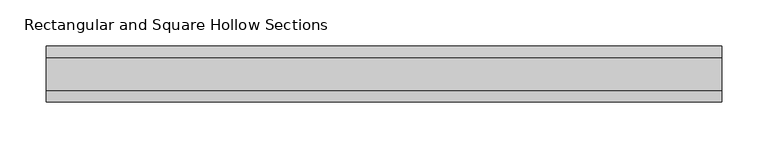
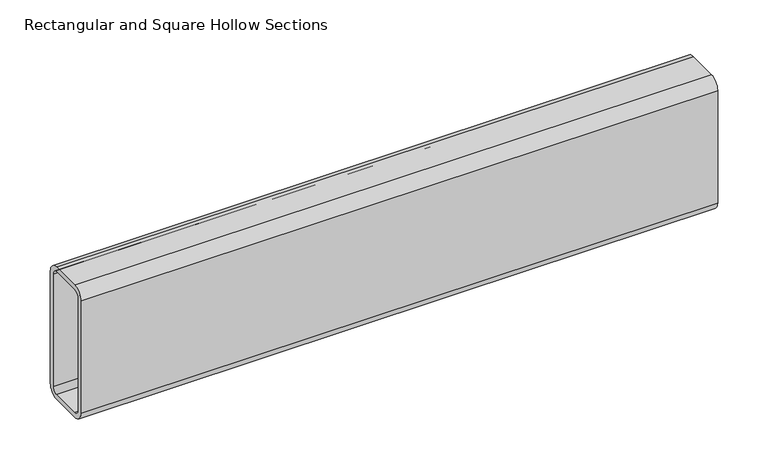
"""IFC4 building model written with IfcOpenShell, lengths in millimetres: beam geometry, Rectangular and Square Hollow Sections : TREC160x60x6."""

import ifcopenshell
import ifcopenshell.guid

model = None  # the IFC model being written
_history = None  # IfcOwnerHistory: only IFC2X3 demands one
_inside = {}  # id of a spatial element -> (the spatial element, [elements in it])
_under = {}  # id of a project, library or spatial element -> (it, [spatial elements below it])
_declared = {}  # id of a project -> (the project, [libraries it declares])
_typed = {}  # id of a type object -> (the type object, [elements of that type])
_made_of = {}  # id of a material, layer set ... -> (it, [elements and type objects made of it])


def new_model(schema):
    """Start an empty IFC model of exactly this schema.

    Asked for "IFC4X3", IfcOpenShell would pick the latest addendum, in which some entities
    have other attributes; the version numbers below select the first issue.
    IFC2X3 requires an IfcOwnerHistory on every rooted entity: one is made here for all.
    """
    global model, _history
    if schema == "IFC4X3":
        model = ifcopenshell.file(schema_version=(4, 3, 0, 0))
    else:
        model = ifcopenshell.file(schema=schema)
    _inside.clear()
    _under.clear()
    _declared.clear()
    _typed.clear()
    _made_of.clear()
    _history = None
    if model.schema == "IFC2X3":
        org = make("IfcOrganization", Name="unknown")
        user = make(
            "IfcPersonAndOrganization",
            ThePerson=make("IfcPerson", FamilyName="unknown"),
            TheOrganization=org,
        )
        app = make(
            "IfcApplication",
            ApplicationDeveloper=org,
            Version="unknown",
            ApplicationFullName="unknown",
            ApplicationIdentifier="unknown",
        )
        _history = make(
            "IfcOwnerHistory",
            OwningUser=user,
            OwningApplication=app,
            ChangeAction="ADDED",
            CreationDate=0,
        )
    return model


def make(cls, **values):
    """One entity of the class cls with the attributes given. An attribute that is None is left unset."""
    return model.create_entity(
        cls, **{name: value for name, value in values.items() if value is not None}
    )


def rooted(cls, **values):
    """An entity with a GlobalId (a new one), such as an element, a storey or a relation."""
    return make(cls, GlobalId=ifcopenshell.guid.new(), OwnerHistory=_history, **values)


def si_unit(unit_type, name, prefix=None):
    """IfcSIUnit, for example si_unit("LENGTHUNIT", "METRE", prefix="MILLI")."""
    return make("IfcSIUnit", UnitType=unit_type, Prefix=prefix, Name=name)


def assignment(units):
    """IfcUnitAssignment: the units of a project."""
    return None if units is None else make("IfcUnitAssignment", Units=units)


def point(xyz):
    """IfcCartesianPoint."""
    return None if xyz is None else make("IfcCartesianPoint", Coordinates=xyz)


def direction(xyz):
    """IfcDirection."""
    return None if xyz is None else make("IfcDirection", DirectionRatios=xyz)


def frame(location, z_axis=None, x_axis=None):
    """IfcAxis2Placement3D, a coordinate frame: its origin and axes. An axis left out is left unset."""
    return make(
        "IfcAxis2Placement3D",
        Location=point(location),
        Axis=direction(z_axis),
        RefDirection=direction(x_axis),
    )


def frame_2d(location, x_axis=None):
    """IfcAxis2Placement2D, a coordinate frame in the plane: its origin and x axis."""
    return make(
        "IfcAxis2Placement2D", Location=point(location), RefDirection=direction(x_axis)
    )


def origin():
    """The frame at (0, 0, 0) with its axes left unset."""
    return frame((0.0, 0.0, 0.0))


def place(relative_to, where):
    """IfcLocalPlacement: puts the frame where relative to a parent placement (None: the world)."""
    return make(
        "IfcLocalPlacement", PlacementRelTo=relative_to, RelativePlacement=where
    )


def context(
    kind, dimensions, precision=None, world=None, true_north=None, identifier=None
):
    """IfcGeometricRepresentationContext, for example the 3D "Model" context."""
    return make(
        "IfcGeometricRepresentationContext",
        ContextIdentifier=identifier,
        ContextType=kind,
        CoordinateSpaceDimension=dimensions,
        Precision=precision,
        WorldCoordinateSystem=world,
        TrueNorth=true_north,
    )


def project(units=None, contexts=None):
    """IfcProject with its units and contexts."""
    return rooted(
        "IfcProject",
        Name="project",
        RepresentationContexts=contexts,
        UnitsInContext=assignment(units),
    )


def spatial(cls, under=None, at=None, **own):
    """A site, building, storey or space (cls), placed at a placement, below another one or the project."""
    s = rooted(cls, ObjectPlacement=at, **own)
    if under is not None:
        _under.setdefault(under.id(), (under, []))[1].append(s)
    return s


def polyline(points):
    """IfcPolyline through the points."""
    return make("IfcPolyline", Points=[point(p) for p in points])


def circle_curve(where, radius):
    """IfcCircle in the frame where."""
    return make("IfcCircle", Position=where, Radius=radius)


def trimmed(basis, trim1, trim2, sense, master):
    """IfcTrimmedCurve: the piece of a basis curve between two trims."""
    return make(
        "IfcTrimmedCurve",
        BasisCurve=basis,
        Trim1=trim1,
        Trim2=trim2,
        SenseAgreement=sense,
        MasterRepresentation=master,
    )


def segment(curve, same_sense, transition):
    """IfcCompositeCurveSegment."""
    return make(
        "IfcCompositeCurveSegment",
        Transition=transition,
        SameSense=same_sense,
        ParentCurve=curve,
    )


def composite_curve(segments, self_intersect=None):
    """IfcCompositeCurve: segments joined end to end."""
    return make("IfcCompositeCurve", Segments=segments, SelfIntersect=self_intersect)


def outline(outer, holes=None, kind="AREA"):
    """IfcArbitraryClosedProfileDef: a profile drawn as a closed curve; with holes, ...WithVoids."""
    if holes is None:
        return make("IfcArbitraryClosedProfileDef", ProfileType=kind, OuterCurve=outer)
    return make(
        "IfcArbitraryProfileDefWithVoids",
        ProfileType=kind,
        OuterCurve=outer,
        InnerCurves=holes,
    )


def extrude(swept, where, along, depth):
    """IfcExtrudedAreaSolid: the profile swept, set in the frame where, extruded along a direction by depth."""
    return make(
        "IfcExtrudedAreaSolid",
        SweptArea=swept,
        Position=where,
        ExtrudedDirection=direction(along),
        Depth=depth,
    )


def shape(context_of_items, identifier, shape_type, items):
    """IfcShapeRepresentation: the items that make up one representation, for example the "Body"."""
    return make(
        "IfcShapeRepresentation",
        ContextOfItems=context_of_items,
        RepresentationIdentifier=identifier,
        RepresentationType=shape_type,
        Items=items,
    )


def source(mapping_origin, context_of_items, identifier, shape_type, items):
    """IfcRepresentationMap: a shape defined once, which mapped items show again and again."""
    return make(
        "IfcRepresentationMap",
        MappingOrigin=mapping_origin,
        MappedRepresentation=shape(context_of_items, identifier, shape_type, items),
    )


def transform(
    local_origin,
    x_axis=None,
    y_axis=None,
    z_axis=None,
    scale=None,
    scale2=None,
    scale3=None,
    uniform=True,
):
    """IfcCartesianTransformationOperator3D, or its non-uniform kind. x_axis, y_axis, z_axis: its Axis1, 2, 3."""
    if uniform:
        return make(
            "IfcCartesianTransformationOperator3D",
            Axis1=direction(x_axis),
            Axis2=direction(y_axis),
            LocalOrigin=point(local_origin),
            Scale=scale,
            Axis3=direction(z_axis),
        )
    return make(
        "IfcCartesianTransformationOperator3DnonUniform",
        Axis1=direction(x_axis),
        Axis2=direction(y_axis),
        LocalOrigin=point(local_origin),
        Scale=scale,
        Axis3=direction(z_axis),
        Scale2=scale2,
        Scale3=scale3,
    )


def mapped(mapping_source, mapping_target):
    """IfcMappedItem: shows the shape of a source again, moved by a transform."""
    return make(
        "IfcMappedItem", MappingSource=mapping_source, MappingTarget=mapping_target
    )


def made_of(thing, what):
    """Note that an element or type object is made of a material, layer set ...; save() writes the relation."""
    if what is not None:
        _made_of.setdefault(what.id(), (what, []))[1].append(thing)
    return thing


def element(
    cls,
    number,
    at=None,
    inside=None,
    cuts=None,
    type_object=None,
    material=None,
    context=None,
    identifier="Body",
    shape_type=None,
    held_by="IfcProductDefinitionShape",
    body=None,
    shapes=None,
    **own,
):
    """One element of the class cls, such as IfcWall. Its Tag is "e" and its number.

    at: its placement. inside: the storey or other place that contains it. cuts: it is an
    opening in that element (IfcRelVoidsElement). A single representation is given by context,
    identifier, shape_type and body (its items); several are given by shapes. held_by: the class
    of the entity that holds the representations. save() writes the other relations.
    """
    e = rooted(cls, Tag="e%d" % number, ObjectPlacement=at, **own)
    if body is not None:
        shapes = [shape(context, identifier, shape_type, body)]
    if shapes is not None:
        e.Representation = make(held_by, Representations=shapes)
    if inside is not None:
        _inside.setdefault(inside.id(), (inside, []))[1].append(e)
    if cuts is not None:
        rooted(
            "IfcRelVoidsElement", RelatingBuildingElement=cuts, RelatedOpeningElement=e
        )
    if type_object is not None:
        _typed.setdefault(type_object.id(), (type_object, []))[1].append(e)
    return made_of(e, material)


def aggregate(whole, parts):
    """IfcRelAggregates: a whole, such as a stair, and the parts it consists of."""
    return rooted("IfcRelAggregates", RelatingObject=whole, RelatedObjects=parts)


def save(model, path):
    """Write the relations noted so far, then the file.

    IfcRelAggregates (storeys below a building ...), IfcRelContainedInSpatialStructure (elements
    in a storey), IfcRelDefinesByType, IfcRelAssociatesMaterial and IfcRelDeclares: one each for
    every whole, place, type object, material and project.
    """
    for whole, parts in _under.values():
        aggregate(whole, parts)
    for where, things in _inside.values():
        rooted(
            "IfcRelContainedInSpatialStructure",
            RelatedElements=things,
            RelatingStructure=where,
        )
    for kind, things in _typed.values():
        rooted("IfcRelDefinesByType", RelatedObjects=things, RelatingType=kind)
    for what, things in _made_of.values():
        rooted("IfcRelAssociatesMaterial", RelatedObjects=things, RelatingMaterial=what)
    for by, libraries in _declared.values():
        rooted("IfcRelDeclares", RelatingContext=by, RelatedDefinitions=libraries)
    model.write(path)


def rectangular_and_square_hollow_sections_56db6596(model_context):
    return source(origin(), model_context, "Body", "SweptSolid", [
        extrude(outline(composite_curve([segment(polyline([(30.0, 68.0), (30.0, -68.0)]), True, "CONTINUOUS"), segment(trimmed(circle_curve(frame_2d((18.0, -68.0)), 12.0), [point((30.0, -68.0))], [point((18.0, -80.0))], False, "CARTESIAN"), True, "CONTINUOUS"), segment(polyline([(18.0, -80.0), (-18.0, -80.0)]), True, "CONTINUOUS"), segment(trimmed(circle_curve(frame_2d((-18.0, -68.0)), 12.0), [point((-18.0, -80.0))], [point((-30.0, -68.0))], False, "CARTESIAN"), True, "CONTINUOUS"), segment(polyline([(-30.0, -68.0), (-30.0, 68.0)]), True, "CONTINUOUS"), segment(trimmed(circle_curve(frame_2d((-18.0, 68.0)), 12.0), [point((-30.0, 68.0))], [point((-18.0, 80.0))], False, "CARTESIAN"), True, "CONTINUOUS"), segment(polyline([(-18.0, 80.0), (18.0, 80.0)]), True, "CONTINUOUS"), segment(trimmed(circle_curve(frame_2d((18.0, 68.0)), 12.0), [point((18.0, 80.0))], [point((30.0, 68.0))], False, "CARTESIAN"), True, "CONTINUOUS")], self_intersect=False), holes=[composite_curve([segment(trimmed(circle_curve(frame_2d((-18.0, 68.0)), 6.0), [point((-18.0, 74.0))], [point((-24.0, 68.0))], True, "CARTESIAN"), True, "CONTINUOUS"), segment(polyline([(-24.0, 68.0), (-24.0, -68.0)]), True, "CONTINUOUS"), segment(trimmed(circle_curve(frame_2d((-18.0, -68.0)), 6.0), [point((-24.0, -68.0))], [point((-18.0, -74.0))], True, "CARTESIAN"), True, "CONTINUOUS"), segment(polyline([(-18.0, -74.0), (18.0, -74.0)]), True, "CONTINUOUS"), segment(trimmed(circle_curve(frame_2d((18.0, -68.0)), 6.0), [point((18.0, -74.0))], [point((24.0, -68.0))], True, "CARTESIAN"), True, "CONTINUOUS"), segment(polyline([(24.0, -68.0), (24.0, 68.0)]), True, "CONTINUOUS"), segment(trimmed(circle_curve(frame_2d((18.0, 68.0)), 6.0), [point((24.0, 68.0))], [point((18.0, 74.0))], True, "CARTESIAN"), True, "CONTINUOUS"), segment(polyline([(18.0, 74.0), (-18.0, 74.0)]), True, "CONTINUOUS")], self_intersect=False)]), frame((-404.5, 0.0, 0.0), z_axis=(1.0, 0.0, 0.0), x_axis=(0.0, 1.0, 0.0)), (0.0, 0.0, 1.0), 728.0),
    ])


if __name__ == "__main__":
    model = new_model("IFC4")
    model_context = context("Model", 3, world=origin())
    ifc_project = project(units=[si_unit("LENGTHUNIT", "METRE", prefix="MILLI")], contexts=[model_context])
    site = spatial("IfcSite", under=ifc_project)
    building = spatial("IfcBuilding", under=site)
    placement = place(None, origin())
    rectangular_and_square_hollow_sections_shape = rectangular_and_square_hollow_sections_56db6596(model_context)
    element("IfcBeam", 1, ObjectType="Rectangular and Square Hollow Sections : TREC160x60x6", at=placement, inside=building, context=model_context, shape_type="MappedRepresentation", body=[
        mapped(rectangular_and_square_hollow_sections_shape, transform((0.0, 0.0, 0.0), x_axis=(1.0, 0.0, 0.0), y_axis=(0.0, 1.0, 0.0), z_axis=(0.0, 0.0, 1.0))),
    ])
    save(model, "model.ifc")
